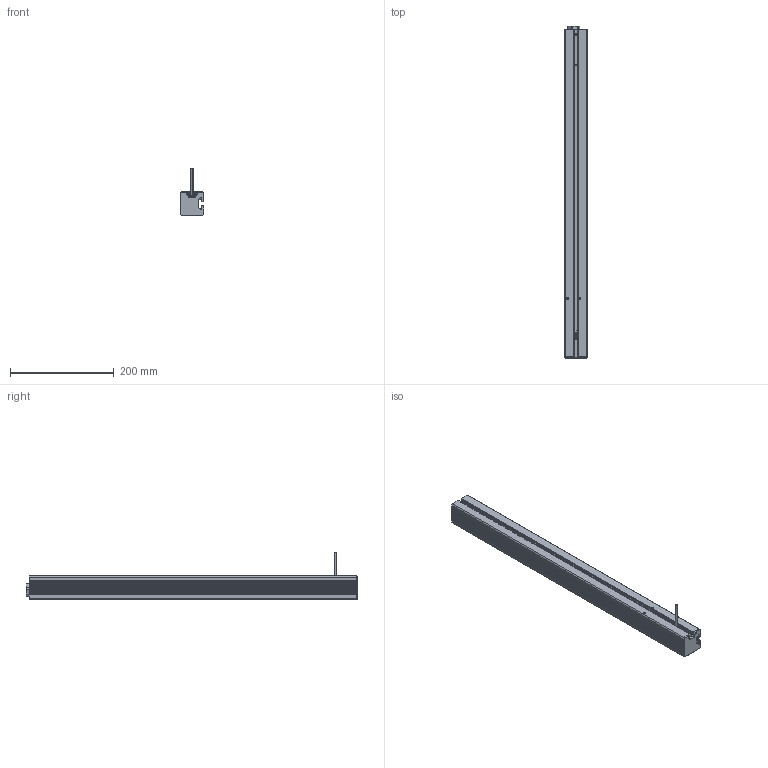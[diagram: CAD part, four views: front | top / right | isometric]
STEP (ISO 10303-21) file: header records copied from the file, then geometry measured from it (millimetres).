
FILE_DESCRIPTION(/* description */ ('Unknown'),/* implementation_level */ '2;1');
FILE_NAME(/* name */ '306.00414_04 Tischbein TQ 1440 A640_eingefahren',/* time_stamp */ '2020-02-05T11:05:35+01:00',/* author */ ('Unknown'),/* organization */ ('Unknown'),/* preprocessor_version */ 'ST-DEVELOPER v16.7',/* originating_system */ 'DEX',/* authorisation */ $);
FILE_SCHEMA (('AUTOMOTIVE_DESIGN {1 0 10303 214 3 1 1}'));
Length unit declared in the file: millimetre
Products named in the file (13): 306.00414; 142.00014; 119.00224; 122.00005; 142.00020; 113.00002_70mm; 124.00125; 128.00040; 106.00404_oa_0; 107.00404_oa_1; 115.00007_oa_2; 123.00104; 125.00051
Assembly tree (16 placements, depth 4):
  306.00414
    142.00014  x2
    119.00224
    122.00005
    142.00020  x4
    113.00002_70mm
    124.00125
    128.00040
    106.00404_oa_0
      107.00404_oa_1
        115.00007_oa_2
      123.00104
      125.00051
Bounding box: 45 x 640 x 90 mm (x, y, z)
Volume: 534365.9 mm3; surface area: 444487.8 mm2
Topology: 13 solids, 13 shells, 1247 faces, 3580 edges, 2303 vertices
Faces by surface type: cylinder 583, plane 517, bspline 44, cone 39, torus 36, sphere 28
Full cylindrical faces by diameter (mm): 2.2 x1, 2.5 x12, 3 x4, 4 x10, 6.647 x1, 8 x1, 8.376 x2, 11.5 x1, 16 x1, 17.3 x1, 19 x1, 20.8 x3, 21 x1, 24 x1, 25 x4, 30 x2
Entity records: 41092 total; most frequent: CARTESIAN_POINT 8956, ORIENTED_EDGE 6776, DIRECTION 6566, EDGE_CURVE 3388, AXIS2_PLACEMENT_3D 2352, VERTEX_POINT 2225, LINE 1862, VECTOR 1862
